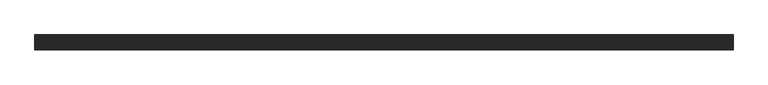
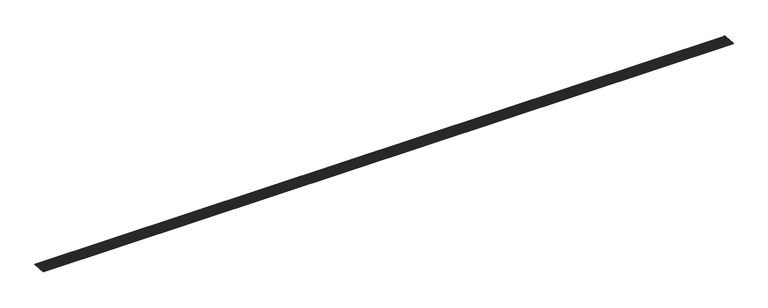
"""IFC4 building model written with IfcOpenShell, lengths in millimetres: slab geometry, ROSA GRES_001 (2 filas) : Piezas 001_Aqua_Blanco_Anti-Slip."""

from ifc_helpers import new_model, si_unit, point, frame, frame_2d, origin, place, context, project, spatial, polyline, circle_curve, trimmed, segment, composite_curve, outline, extrude, source, transform, mapped, element, save


def slab_b1f4c3f1(model_context):
    return source(origin(), model_context, "Body", "SweptSolid", [
        extrude(outline(polyline([(0.0, 118.9996), (11460.0, 118.9996), (11460.0, 0.0), (0.0, 0.0), (0.0, 118.9996)])), frame((11460.0, -124.0577627, 199.6968204), z_axis=(0.0, 0.08112705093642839, 0.9967037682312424), x_axis=(-1.0, 0.0, 0.0)), (0.0, 0.0, 1.0), 5.0),
        extrude(outline(polyline([(0.0, 118.9996), (11460.0, 118.9996), (11460.0, 0.0), (0.0, 0.0), (0.0, 118.9996)])), frame((11460.0, -248.6453351, 209.8376693), z_axis=(0.0, 0.08112705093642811, 0.9967037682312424), x_axis=(-1.0, 0.0, 0.0)), (0.0, 0.0, 1.0), 5.0),
        extrude(outline(composite_curve([segment(polyline([(-242.2594772, 214.3344258), (-242.046278, 216.9537305)]), True, "CONTINUOUS"), segment(trimmed(circle_curve(frame_2d((-241.5926747, 222.5265709)), 5.5912705), [point((-242.046278, 216.9537305))], [point((-237.6514463, 218.5605875))], True, "CARTESIAN"), True, "CONTINUOUS"), segment(trimmed(circle_curve(frame_2d((-233.1207211, 221.8369933)), 5.5912705), [point((-237.6514463, 218.5605875))], [point((-229.1794928, 217.8710099))], True, "CARTESIAN"), True, "CONTINUOUS"), segment(trimmed(circle_curve(frame_2d((-224.6487676, 221.1474157)), 5.5912705), [point((-229.1794928, 217.8710099))], [point((-220.7075392, 217.1814322))], True, "CARTESIAN"), True, "CONTINUOUS"), segment(trimmed(circle_curve(frame_2d((-216.176814, 220.457838)), 5.5912705), [point((-220.7075392, 217.1814322))], [point((-212.2355856, 216.4918546))], True, "CARTESIAN"), True, "CONTINUOUS"), segment(trimmed(circle_curve(frame_2d((-207.7048605, 219.7682604)), 5.5912705), [point((-212.2355856, 216.4918546))], [point((-203.7636321, 215.802277))], True, "CARTESIAN"), True, "CONTINUOUS"), segment(trimmed(circle_curve(frame_2d((-199.2329069, 219.0786828)), 5.5912705), [point((-203.7636321, 215.802277))], [point((-195.2916785, 215.1126994))], True, "CARTESIAN"), True, "CONTINUOUS"), segment(trimmed(circle_curve(frame_2d((-190.7609534, 218.3891052)), 5.5912705), [point((-195.2916785, 215.1126994))], [point((-186.819725, 214.4231218))], True, "CARTESIAN"), True, "CONTINUOUS"), segment(trimmed(circle_curve(frame_2d((-182.2889998, 217.6995276)), 5.5912705), [point((-186.819725, 214.4231218))], [point((-178.3477714, 213.7335442))], True, "CARTESIAN"), True, "CONTINUOUS"), segment(trimmed(circle_curve(frame_2d((-173.8170463, 217.00995)), 5.5912705), [point((-178.3477714, 213.7335442))], [point((-169.8758179, 213.0439666))], True, "CARTESIAN"), True, "CONTINUOUS"), segment(trimmed(circle_curve(frame_2d((-165.3450927, 216.3203723)), 5.5912705), [point((-169.8758179, 213.0439666))], [point((-161.4038643, 212.3543889))], True, "CARTESIAN"), True, "CONTINUOUS"), segment(trimmed(circle_curve(frame_2d((-156.8731392, 215.6307947)), 5.5912705), [point((-161.4038643, 212.3543889))], [point((-152.9319108, 211.6648113))], True, "CARTESIAN"), True, "CONTINUOUS"), segment(trimmed(circle_curve(frame_2d((-148.4011856, 214.9412171)), 5.5912705), [point((-152.9319108, 211.6648113))], [point((-144.4599572, 210.9752337))], True, "CARTESIAN"), True, "CONTINUOUS"), segment(trimmed(circle_curve(frame_2d((-139.929232, 214.2516395)), 5.5912705), [point((-144.4599572, 210.9752337))], [point((-135.9880037, 210.2856561))], True, "CARTESIAN"), True, "CONTINUOUS"), segment(trimmed(circle_curve(frame_2d((-131.4572785, 213.5620619)), 5.5912705), [point((-135.9880037, 210.2856561))], [point((-127.5160501, 209.5960785))], True, "CARTESIAN"), True, "CONTINUOUS"), segment(trimmed(circle_curve(frame_2d((-122.9853249, 212.8724843)), 5.5912705), [point((-127.5160501, 209.5960785))], [point((-123.4389282, 207.2996439))], True, "CARTESIAN"), True, "CONTINUOUS"), segment(polyline([(-123.4389282, 207.2996439), (-123.6521274, 204.6803392), (-242.2594772, 214.3344258)]), True, "CONTINUOUS")], self_intersect=False)), frame((0.0, 0.0, 0.0), z_axis=(1.0, 0.0, 0.0), x_axis=(0.0, 1.0, 0.0)), (0.0, 0.0, 1.0), 11460.0),
        extrude(outline(composite_curve([segment(polyline([(-366.8470495, 224.4752747), (-366.6338503, 227.0945794)]), True, "CONTINUOUS"), segment(trimmed(circle_curve(frame_2d((-366.180247, 232.6674198)), 5.5912705), [point((-366.6338503, 227.0945794))], [point((-362.2390187, 228.7014364))], True, "CARTESIAN"), True, "CONTINUOUS"), segment(trimmed(circle_curve(frame_2d((-357.7082935, 231.9778422)), 5.5912705), [point((-362.2390187, 228.7014364))], [point((-353.7670651, 228.0118588))], True, "CARTESIAN"), True, "CONTINUOUS"), segment(trimmed(circle_curve(frame_2d((-349.2363399, 231.2882646)), 5.5912705), [point((-353.7670651, 228.0118588))], [point((-345.2951115, 227.3222812))], True, "CARTESIAN"), True, "CONTINUOUS"), segment(trimmed(circle_curve(frame_2d((-340.7643864, 230.5986869)), 5.5912705), [point((-345.2951115, 227.3222812))], [point((-336.823158, 226.6327035))], True, "CARTESIAN"), True, "CONTINUOUS"), segment(trimmed(circle_curve(frame_2d((-332.2924328, 229.9091093)), 5.5912705), [point((-336.823158, 226.6327035))], [point((-328.3512044, 225.9431259))], True, "CARTESIAN"), True, "CONTINUOUS"), segment(trimmed(circle_curve(frame_2d((-323.8204793, 229.2195317)), 5.5912705), [point((-328.3512044, 225.9431259))], [point((-319.8792509, 225.2535483))], True, "CARTESIAN"), True, "CONTINUOUS"), segment(trimmed(circle_curve(frame_2d((-315.3485257, 228.5299541)), 5.5912705), [point((-319.8792509, 225.2535483))], [point((-311.4072973, 224.5639707))], True, "CARTESIAN"), True, "CONTINUOUS"), segment(trimmed(circle_curve(frame_2d((-306.8765722, 227.8403765)), 5.5912705), [point((-311.4072973, 224.5639707))], [point((-302.9353438, 223.8743931))], True, "CARTESIAN"), True, "CONTINUOUS"), segment(trimmed(circle_curve(frame_2d((-298.4046186, 227.1507989)), 5.5912705), [point((-302.9353438, 223.8743931))], [point((-294.4633902, 223.1848155))], True, "CARTESIAN"), True, "CONTINUOUS"), segment(trimmed(circle_curve(frame_2d((-289.9326651, 226.4612213)), 5.5912705), [point((-294.4633902, 223.1848155))], [point((-285.9914367, 222.4952379))], True, "CARTESIAN"), True, "CONTINUOUS"), segment(trimmed(circle_curve(frame_2d((-281.4607115, 225.7716436)), 5.5912705), [point((-285.9914367, 222.4952379))], [point((-277.5194831, 221.8056602))], True, "CARTESIAN"), True, "CONTINUOUS"), segment(trimmed(circle_curve(frame_2d((-272.9887579, 225.082066)), 5.5912705), [point((-277.5194831, 221.8056602))], [point((-269.0475296, 221.1160826))], True, "CARTESIAN"), True, "CONTINUOUS"), segment(trimmed(circle_curve(frame_2d((-264.5168044, 224.3924884)), 5.5912705), [point((-269.0475296, 221.1160826))], [point((-260.575576, 220.426505))], True, "CARTESIAN"), True, "CONTINUOUS"), segment(trimmed(circle_curve(frame_2d((-256.0448508, 223.7029108)), 5.5912705), [point((-260.575576, 220.426505))], [point((-252.1036225, 219.7369274))], True, "CARTESIAN"), True, "CONTINUOUS"), segment(trimmed(circle_curve(frame_2d((-247.5728973, 223.0133332)), 5.5912705), [point((-252.1036225, 219.7369274))], [point((-248.0265006, 217.4404928))], True, "CARTESIAN"), True, "CONTINUOUS"), segment(polyline([(-248.0265006, 217.4404928), (-248.2396998, 214.8211881), (-366.8470495, 224.4752747)]), True, "CONTINUOUS")], self_intersect=False)), frame((0.0, 0.0, 0.0), z_axis=(1.0, 0.0, 0.0), x_axis=(0.0, 1.0, 0.0)), (0.0, 0.0, 1.0), 11460.0),
    ])


if __name__ == "__main__":
    model = new_model("IFC4")
    model_context = context("Model", 3, world=origin())
    ifc_project = project(units=[si_unit("LENGTHUNIT", "METRE", prefix="MILLI")], contexts=[model_context])
    site = spatial("IfcSite", under=ifc_project)
    building = spatial("IfcBuilding", under=site)
    placement = place(None, origin())
    slab_shape = slab_b1f4c3f1(model_context)
    element("IfcSlab", 1, ObjectType="ROSA GRES_001 (2 filas) : Piezas 001_Aqua_Blanco_Anti-Slip", at=placement, inside=building, context=model_context, shape_type="MappedRepresentation", body=[
        mapped(slab_shape, transform((0.0, 0.0, 0.0), x_axis=(1.0, 0.0, 0.0), y_axis=(0.0, 1.0, 0.0), z_axis=(0.0, 0.0, 1.0))),
    ])
    save(model, "model.ifc")
